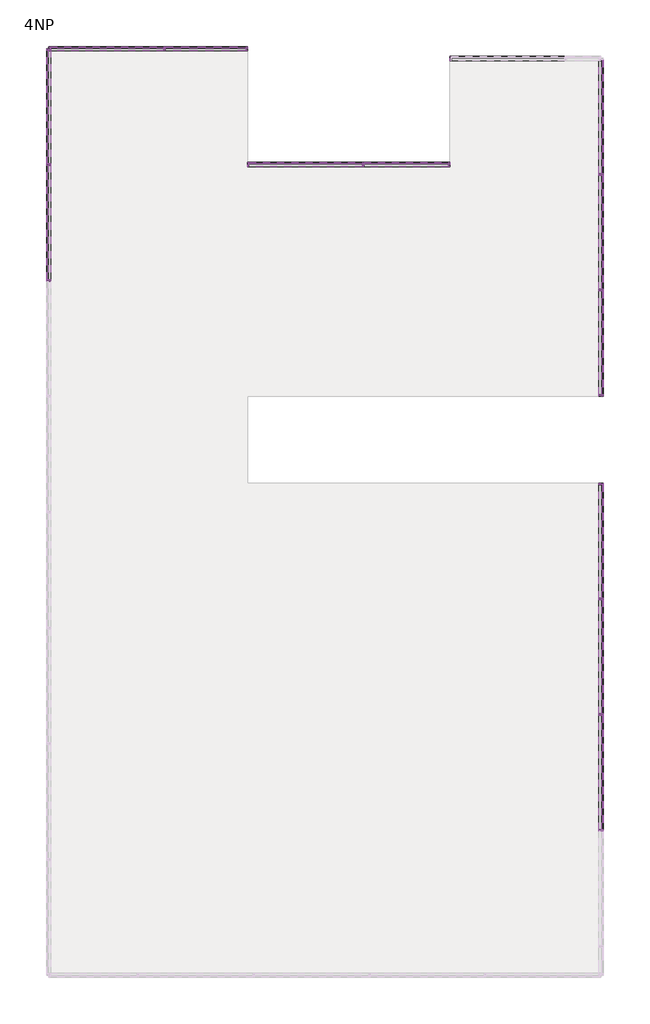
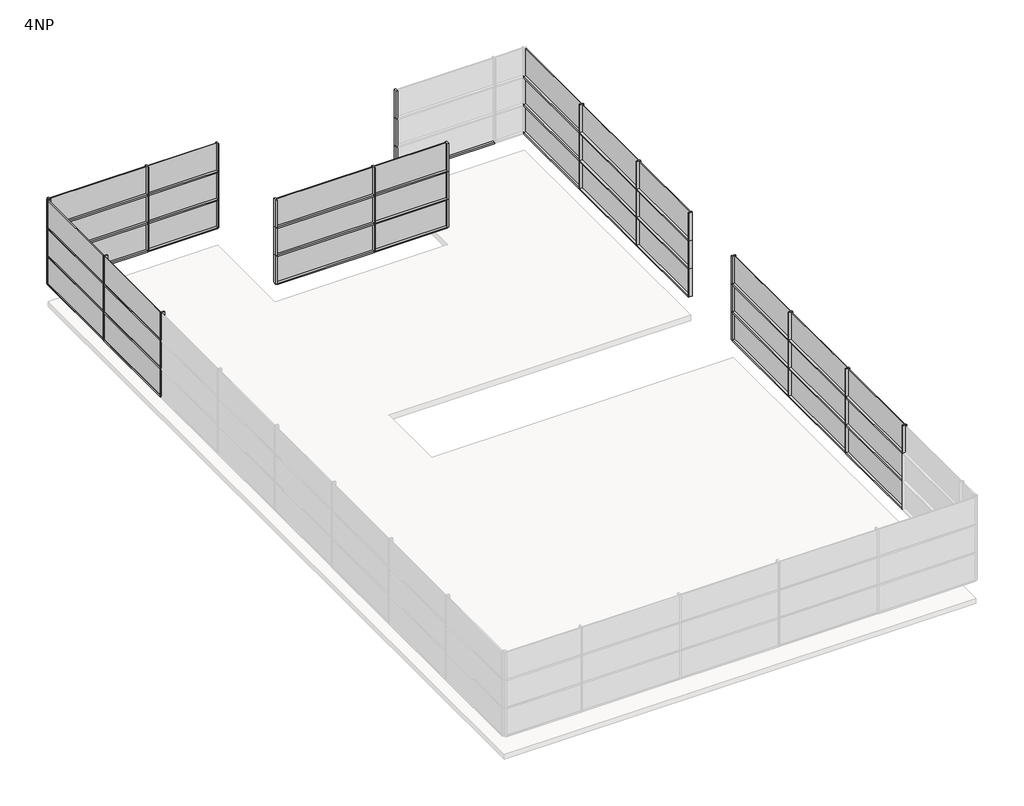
# One storey, part 2 of 3: 86 members, 36 plates.
"""IFC4 building model written with IfcOpenShell, lengths in millimetres."""

from ifc_helpers import new_model, si_unit, origin, place, context, project, spatial, transform, mapped, element, save
from components import rectangular_mullion_50_x_150mm_d99dc9be, rectangular_mullion_50_x_150mm_6588f46c, rectangular_mullion_50_x_150mm_3fe1b35e, rectangular_mullion_50_x_150mm_a037c29c, rectangular_mullion_50_x_150mm_c2546fd4, rectangular_mullion_50_x_150mm_8b4cb4b7, rectangular_mullion_50_x_150mm_185cfd49, system_panel_glazed_8e9402eb, system_panel_glazed_89ac83a7, system_panel_glazed_5566c609, system_panel_glazed_e890f31e, system_panel_glazed_e3e91f99

model = new_model("IFC4")

# Units and contexts
model_context = context("Model", 3, world=origin())
ifc_project = project(units=[si_unit("LENGTHUNIT", "METRE", prefix="MILLI")], contexts=[model_context])

# Site, building, storey
site = spatial("IfcSite", under=ifc_project)
building = spatial("IfcBuilding", under=site)
storey = spatial("IfcBuildingStorey", under=building, Name="4NP", Elevation=16000.0)

# Members
placement = place(None, origin())
rectangular_mullion_50_x_150mm_shape = rectangular_mullion_50_x_150mm_d99dc9be(model_context)
element("IfcMember", 1, ObjectType="Rectangular Mullion : 50 x 150mm", at=placement, inside=storey, context=model_context, shape_type="MappedRepresentation", body=[
    mapped(rectangular_mullion_50_x_150mm_shape, transform((13503.2660975, 39.3555415, 20400.0), x_axis=(0.0, -1.0, 0.0), y_axis=(1.0, 0.0, 0.0), z_axis=(0.0, 0.0, 1.0))),
])
element("IfcMember", 2, ObjectType="Rectangular Mullion : 50 x 150mm", at=placement, inside=storey, context=model_context, shape_type="MappedRepresentation", body=[
    mapped(rectangular_mullion_50_x_150mm_shape, transform((13503.2660975, 39.3555415, 19200.0), x_axis=(0.0, -1.0, 0.0), y_axis=(1.0, 0.0, 0.0), z_axis=(0.0, 0.0, 1.0))),
])
element("IfcMember", 3, ObjectType="Rectangular Mullion : 50 x 150mm", at=placement, inside=storey, context=model_context, shape_type="MappedRepresentation", body=[
    mapped(rectangular_mullion_50_x_150mm_shape, transform((13503.2660975, 39.3555415, 18000.0), x_axis=(0.0, -1.0, 0.0), y_axis=(1.0, 0.0, 0.0), z_axis=(0.0, 0.0, 1.0))),
])
element("IfcMember", 4, ObjectType="Rectangular Mullion : 50 x 150mm", at=placement, inside=storey, context=model_context, shape_type="MappedRepresentation", body=[
    mapped(rectangular_mullion_50_x_150mm_shape, transform((13503.2660975, 4039.3555415, 20400.0), x_axis=(0.0, -1.0, 0.0), y_axis=(1.0, 0.0, 0.0), z_axis=(0.0, 0.0, 1.0))),
])
element("IfcMember", 5, ObjectType="Rectangular Mullion : 50 x 150mm", at=placement, inside=storey, context=model_context, shape_type="MappedRepresentation", body=[
    mapped(rectangular_mullion_50_x_150mm_shape, transform((13503.2660975, 4039.3555415, 19200.0), x_axis=(0.0, -1.0, 0.0), y_axis=(1.0, 0.0, 0.0), z_axis=(0.0, 0.0, 1.0))),
])
element("IfcMember", 6, ObjectType="Rectangular Mullion : 50 x 150mm", at=placement, inside=storey, context=model_context, shape_type="MappedRepresentation", body=[
    mapped(rectangular_mullion_50_x_150mm_shape, transform((13503.2660975, 4039.3555415, 18000.0), x_axis=(0.0, -1.0, 0.0), y_axis=(1.0, 0.0, 0.0), z_axis=(0.0, 0.0, 1.0))),
])
element("IfcMember", 7, ObjectType="Rectangular Mullion : 50 x 150mm", at=placement, inside=storey, context=model_context, shape_type="MappedRepresentation", body=[
    mapped(rectangular_mullion_50_x_150mm_shape, transform((13503.2660975, -10624.0160434, 18000.0), x_axis=(0.0, -1.0, 0.0), y_axis=(1.0, 0.0, 0.0), z_axis=(0.0, 0.0, 1.0))),
])
element("IfcMember", 8, ObjectType="Rectangular Mullion : 50 x 150mm", at=placement, inside=storey, context=model_context, shape_type="MappedRepresentation", body=[
    mapped(rectangular_mullion_50_x_150mm_shape, transform((13503.2660975, -10624.0160434, 19200.0), x_axis=(0.0, -1.0, 0.0), y_axis=(1.0, 0.0, 0.0), z_axis=(0.0, 0.0, 1.0))),
])
element("IfcMember", 9, ObjectType="Rectangular Mullion : 50 x 150mm", at=placement, inside=storey, context=model_context, shape_type="MappedRepresentation", body=[
    mapped(rectangular_mullion_50_x_150mm_shape, transform((13503.2660975, -10624.0160434, 20400.0), x_axis=(0.0, -1.0, 0.0), y_axis=(1.0, 0.0, 0.0), z_axis=(0.0, 0.0, 1.0))),
])
element("IfcMember", 10, ObjectType="Rectangular Mullion : 50 x 150mm", at=placement, inside=storey, context=model_context, shape_type="MappedRepresentation", body=[
    mapped(rectangular_mullion_50_x_150mm_shape, transform((13503.2660975, -14624.0160434, 18000.0), x_axis=(0.0, -1.0, 0.0), y_axis=(1.0, 0.0, 0.0), z_axis=(0.0, 0.0, 1.0))),
])
element("IfcMember", 11, ObjectType="Rectangular Mullion : 50 x 150mm", at=placement, inside=storey, context=model_context, shape_type="MappedRepresentation", body=[
    mapped(rectangular_mullion_50_x_150mm_shape, transform((13503.2660975, -14624.0160434, 19200.0), x_axis=(0.0, -1.0, 0.0), y_axis=(1.0, 0.0, 0.0), z_axis=(0.0, 0.0, 1.0))),
])
element("IfcMember", 12, ObjectType="Rectangular Mullion : 50 x 150mm", at=placement, inside=storey, context=model_context, shape_type="MappedRepresentation", body=[
    mapped(rectangular_mullion_50_x_150mm_shape, transform((13503.2660975, -14624.0160434, 20400.0), x_axis=(0.0, -1.0, 0.0), y_axis=(1.0, 0.0, 0.0), z_axis=(0.0, 0.0, 1.0))),
])
element("IfcMember", 13, ObjectType="Rectangular Mullion : 50 x 150mm", at=placement, inside=storey, context=model_context, shape_type="MappedRepresentation", body=[
    mapped(rectangular_mullion_50_x_150mm_shape, transform((13503.2660975, -18624.0160434, 20400.0), x_axis=(0.0, -1.0, 0.0), y_axis=(1.0, 0.0, 0.0), z_axis=(0.0, 0.0, 1.0))),
])
element("IfcMember", 14, ObjectType="Rectangular Mullion : 50 x 150mm", at=placement, inside=storey, context=model_context, shape_type="MappedRepresentation", body=[
    mapped(rectangular_mullion_50_x_150mm_shape, transform((-5587.173406, 375.9839566, 18000.0), x_axis=(0.0, 1.0, 0.0), y_axis=(-1.0, 0.0, 0.0), z_axis=(0.0, 0.0, 1.0))),
])
element("IfcMember", 15, ObjectType="Rectangular Mullion : 50 x 150mm", at=placement, inside=storey, context=model_context, shape_type="MappedRepresentation", body=[
    mapped(rectangular_mullion_50_x_150mm_shape, transform((-5587.173406, 375.9839566, 19200.0), x_axis=(0.0, 1.0, 0.0), y_axis=(-1.0, 0.0, 0.0), z_axis=(0.0, 0.0, 1.0))),
])
element("IfcMember", 16, ObjectType="Rectangular Mullion : 50 x 150mm", at=placement, inside=storey, context=model_context, shape_type="MappedRepresentation", body=[
    mapped(rectangular_mullion_50_x_150mm_shape, transform((-5587.173406, 375.9839566, 20400.0), x_axis=(0.0, 1.0, 0.0), y_axis=(-1.0, 0.0, 0.0), z_axis=(0.0, 0.0, 1.0))),
])
element("IfcMember", 17, ObjectType="Rectangular Mullion : 50 x 150mm", at=placement, inside=storey, context=model_context, shape_type="MappedRepresentation", body=[
    mapped(rectangular_mullion_50_x_150mm_shape, transform((-5587.173406, 4375.9839566, 18000.0), x_axis=(0.0, 1.0, 0.0), y_axis=(-1.0, 0.0, 0.0), z_axis=(0.0, 0.0, 1.0))),
])
element("IfcMember", 18, ObjectType="Rectangular Mullion : 50 x 150mm", at=placement, inside=storey, context=model_context, shape_type="MappedRepresentation", body=[
    mapped(rectangular_mullion_50_x_150mm_shape, transform((-5587.173406, 4375.9839566, 19200.0), x_axis=(0.0, 1.0, 0.0), y_axis=(-1.0, 0.0, 0.0), z_axis=(0.0, 0.0, 1.0))),
])
element("IfcMember", 19, ObjectType="Rectangular Mullion : 50 x 150mm", at=placement, inside=storey, context=model_context, shape_type="MappedRepresentation", body=[
    mapped(rectangular_mullion_50_x_150mm_shape, transform((-5587.173406, 4375.9839566, 20400.0), x_axis=(0.0, 1.0, 0.0), y_axis=(-1.0, 0.0, 0.0), z_axis=(0.0, 0.0, 1.0))),
])
element("IfcMember", 20, ObjectType="Rectangular Mullion : 50 x 150mm", at=placement, inside=storey, context=model_context, shape_type="MappedRepresentation", body=[
    mapped(rectangular_mullion_50_x_150mm_shape, transform((-1587.173406, 8375.9839566, 18000.0), x_axis=(1.0, 0.0, 0.0), y_axis=(0.0, 1.0, 0.0), z_axis=(0.0, 0.0, 1.0))),
])
element("IfcMember", 21, ObjectType="Rectangular Mullion : 50 x 150mm", at=placement, inside=storey, context=model_context, shape_type="MappedRepresentation", body=[
    mapped(rectangular_mullion_50_x_150mm_shape, transform((-1587.173406, 8375.9839566, 19200.0), x_axis=(1.0, 0.0, 0.0), y_axis=(0.0, 1.0, 0.0), z_axis=(0.0, 0.0, 1.0))),
])
element("IfcMember", 22, ObjectType="Rectangular Mullion : 50 x 150mm", at=placement, inside=storey, context=model_context, shape_type="MappedRepresentation", body=[
    mapped(rectangular_mullion_50_x_150mm_shape, transform((-1587.173406, 8375.9839566, 20400.0), x_axis=(1.0, 0.0, 0.0), y_axis=(0.0, 1.0, 0.0), z_axis=(0.0, 0.0, 1.0))),
])
element("IfcMember", 23, ObjectType="Rectangular Mullion : 50 x 150mm", at=placement, inside=storey, context=model_context, shape_type="MappedRepresentation", body=[
    mapped(rectangular_mullion_50_x_150mm_shape, transform((5278.419219, 4375.9839566, 18000.0), x_axis=(1.0, 0.0, 0.0), y_axis=(0.0, 1.0, 0.0), z_axis=(0.0, 0.0, 1.0))),
])
element("IfcMember", 24, ObjectType="Rectangular Mullion : 50 x 150mm", at=placement, inside=storey, context=model_context, shape_type="MappedRepresentation", body=[
    mapped(rectangular_mullion_50_x_150mm_shape, transform((5278.419219, 4375.9839566, 19200.0), x_axis=(1.0, 0.0, 0.0), y_axis=(0.0, 1.0, 0.0), z_axis=(0.0, 0.0, 1.0))),
])
element("IfcMember", 25, ObjectType="Rectangular Mullion : 50 x 150mm", at=placement, inside=storey, context=model_context, shape_type="MappedRepresentation", body=[
    mapped(rectangular_mullion_50_x_150mm_shape, transform((5278.419219, 4375.9839566, 20400.0), x_axis=(1.0, 0.0, 0.0), y_axis=(0.0, 1.0, 0.0), z_axis=(0.0, 0.0, 1.0))),
])
rectangular_mullion_50_x_150mm_2_shape = rectangular_mullion_50_x_150mm_6588f46c(model_context)
element("IfcMember", 26, ObjectType="Rectangular Mullion : 50 x 150mm", at=placement, inside=storey, context=model_context, shape_type="MappedRepresentation", body=[
    mapped(rectangular_mullion_50_x_150mm_2_shape, transform((13503.2660975, -3624.0160434, 20400.0), x_axis=(0.0, -1.0, 0.0), y_axis=(1.0, 0.0, 0.0), z_axis=(0.0, 0.0, 1.0))),
])
element("IfcMember", 27, ObjectType="Rectangular Mullion : 50 x 150mm", at=placement, inside=storey, context=model_context, shape_type="MappedRepresentation", body=[
    mapped(rectangular_mullion_50_x_150mm_2_shape, transform((13503.2660975, -3624.0160434, 19200.0), x_axis=(0.0, -1.0, 0.0), y_axis=(1.0, 0.0, 0.0), z_axis=(0.0, 0.0, 1.0))),
])
element("IfcMember", 28, ObjectType="Rectangular Mullion : 50 x 150mm", at=placement, inside=storey, context=model_context, shape_type="MappedRepresentation", body=[
    mapped(rectangular_mullion_50_x_150mm_2_shape, transform((13503.2660975, -3624.0160434, 18000.0), x_axis=(0.0, -1.0, 0.0), y_axis=(1.0, 0.0, 0.0), z_axis=(0.0, 0.0, 1.0))),
])
element("IfcMember", 29, ObjectType="Rectangular Mullion : 50 x 150mm", at=placement, inside=storey, context=model_context, shape_type="MappedRepresentation", body=[
    mapped(rectangular_mullion_50_x_150mm_2_shape, transform((-5587.173406, 8375.9839566, 18000.0), x_axis=(0.0, 1.0, 0.0), y_axis=(-1.0, 0.0, 0.0), z_axis=(0.0, 0.0, 1.0))),
])
element("IfcMember", 30, ObjectType="Rectangular Mullion : 50 x 150mm", at=placement, inside=storey, context=model_context, shape_type="MappedRepresentation", body=[
    mapped(rectangular_mullion_50_x_150mm_2_shape, transform((-5587.173406, 8375.9839566, 19200.0), x_axis=(0.0, 1.0, 0.0), y_axis=(-1.0, 0.0, 0.0), z_axis=(0.0, 0.0, 1.0))),
])
element("IfcMember", 31, ObjectType="Rectangular Mullion : 50 x 150mm", at=placement, inside=storey, context=model_context, shape_type="MappedRepresentation", body=[
    mapped(rectangular_mullion_50_x_150mm_2_shape, transform((-5587.173406, 8375.9839566, 20400.0), x_axis=(0.0, 1.0, 0.0), y_axis=(-1.0, 0.0, 0.0), z_axis=(0.0, 0.0, 1.0))),
])
element("IfcMember", 32, ObjectType="Rectangular Mullion : 50 x 150mm", at=placement, inside=storey, context=model_context, shape_type="MappedRepresentation", body=[
    mapped(rectangular_mullion_50_x_150mm_2_shape, transform((1278.419219, 8375.9839566, 18000.0), x_axis=(1.0, 0.0, 0.0), y_axis=(0.0, 1.0, 0.0), z_axis=(0.0, 0.0, 1.0))),
])
element("IfcMember", 33, ObjectType="Rectangular Mullion : 50 x 150mm", at=placement, inside=storey, context=model_context, shape_type="MappedRepresentation", body=[
    mapped(rectangular_mullion_50_x_150mm_2_shape, transform((1278.419219, 8375.9839566, 19200.0), x_axis=(1.0, 0.0, 0.0), y_axis=(0.0, 1.0, 0.0), z_axis=(0.0, 0.0, 1.0))),
])
element("IfcMember", 34, ObjectType="Rectangular Mullion : 50 x 150mm", at=placement, inside=storey, context=model_context, shape_type="MappedRepresentation", body=[
    mapped(rectangular_mullion_50_x_150mm_2_shape, transform((1278.419219, 8375.9839566, 20400.0), x_axis=(1.0, 0.0, 0.0), y_axis=(0.0, 1.0, 0.0), z_axis=(0.0, 0.0, 1.0))),
])
element("IfcMember", 35, ObjectType="Rectangular Mullion : 50 x 150mm", at=placement, inside=storey, context=model_context, shape_type="MappedRepresentation", body=[
    mapped(rectangular_mullion_50_x_150mm_2_shape, transform((8278.419219, 4375.9839566, 18000.0), x_axis=(1.0, 0.0, 0.0), y_axis=(0.0, 1.0, 0.0), z_axis=(0.0, 0.0, 1.0))),
])
element("IfcMember", 36, ObjectType="Rectangular Mullion : 50 x 150mm", at=placement, inside=storey, context=model_context, shape_type="MappedRepresentation", body=[
    mapped(rectangular_mullion_50_x_150mm_2_shape, transform((8278.419219, 4375.9839566, 19200.0), x_axis=(1.0, 0.0, 0.0), y_axis=(0.0, 1.0, 0.0), z_axis=(0.0, 0.0, 1.0))),
])
element("IfcMember", 37, ObjectType="Rectangular Mullion : 50 x 150mm", at=placement, inside=storey, context=model_context, shape_type="MappedRepresentation", body=[
    mapped(rectangular_mullion_50_x_150mm_2_shape, transform((8278.419219, 4375.9839566, 20400.0), x_axis=(1.0, 0.0, 0.0), y_axis=(0.0, 1.0, 0.0), z_axis=(0.0, 0.0, 1.0))),
])
rectangular_mullion_50_x_150mm_3_shape = rectangular_mullion_50_x_150mm_3fe1b35e(model_context)
element("IfcMember", 38, ObjectType="Rectangular Mullion : 50 x 150mm", at=placement, inside=storey, context=model_context, shape_type="MappedRepresentation", body=[
    mapped(rectangular_mullion_50_x_150mm_3_shape, transform((13503.2660975, 14.3555415, 19200.0), x_axis=(0.0, 0.0, 1.0), y_axis=(1.0, 0.0, 0.0), z_axis=(0.0, 1.0, 0.0))),
])
element("IfcMember", 39, ObjectType="Rectangular Mullion : 50 x 150mm", at=placement, inside=storey, context=model_context, shape_type="MappedRepresentation", body=[
    mapped(rectangular_mullion_50_x_150mm_3_shape, transform((13503.2660975, 14.3555415, 18000.0), x_axis=(0.0, 0.0, 1.0), y_axis=(1.0, 0.0, 0.0), z_axis=(0.0, 1.0, 0.0))),
])
element("IfcMember", 40, ObjectType="Rectangular Mullion : 50 x 150mm", at=placement, inside=storey, context=model_context, shape_type="MappedRepresentation", body=[
    mapped(rectangular_mullion_50_x_150mm_3_shape, transform((13503.2660975, 14.3555415, 16800.0), x_axis=(0.0, 0.0, 1.0), y_axis=(1.0, 0.0, 0.0), z_axis=(0.0, 1.0, 0.0))),
])
rectangular_mullion_50_x_150mm_4_shape = rectangular_mullion_50_x_150mm_a037c29c(model_context)
element("IfcMember", 41, ObjectType="Rectangular Mullion : 50 x 150mm", at=placement, inside=storey, context=model_context, shape_type="MappedRepresentation", body=[
    mapped(rectangular_mullion_50_x_150mm_4_shape, transform((13503.2660975, 4014.3555415, 19200.0), x_axis=(0.0, 0.0, 1.0), y_axis=(1.0, 0.0, 0.0), z_axis=(0.0, 1.0, 0.0))),
])
element("IfcMember", 42, ObjectType="Rectangular Mullion : 50 x 150mm", at=placement, inside=storey, context=model_context, shape_type="MappedRepresentation", body=[
    mapped(rectangular_mullion_50_x_150mm_4_shape, transform((13503.2660975, 4014.3555415, 18000.0), x_axis=(0.0, 0.0, 1.0), y_axis=(1.0, 0.0, 0.0), z_axis=(0.0, 1.0, 0.0))),
])
element("IfcMember", 43, ObjectType="Rectangular Mullion : 50 x 150mm", at=placement, inside=storey, context=model_context, shape_type="MappedRepresentation", body=[
    mapped(rectangular_mullion_50_x_150mm_4_shape, transform((13503.2660975, 4014.3555415, 16800.0), x_axis=(0.0, 0.0, 1.0), y_axis=(1.0, 0.0, 0.0), z_axis=(0.0, 1.0, 0.0))),
])
element("IfcMember", 44, ObjectType="Rectangular Mullion : 50 x 150mm", at=placement, inside=storey, context=model_context, shape_type="MappedRepresentation", body=[
    mapped(rectangular_mullion_50_x_150mm_4_shape, transform((13503.2660975, -10649.0160434, 16800.0), x_axis=(0.0, 0.0, 1.0), y_axis=(1.0, 0.0, 0.0), z_axis=(0.0, 1.0, 0.0))),
])
element("IfcMember", 45, ObjectType="Rectangular Mullion : 50 x 150mm", at=placement, inside=storey, context=model_context, shape_type="MappedRepresentation", body=[
    mapped(rectangular_mullion_50_x_150mm_4_shape, transform((13503.2660975, -14649.0160434, 16800.0), x_axis=(0.0, 0.0, 1.0), y_axis=(1.0, 0.0, 0.0), z_axis=(0.0, 1.0, 0.0))),
])
element("IfcMember", 46, ObjectType="Rectangular Mullion : 50 x 150mm", at=placement, inside=storey, context=model_context, shape_type="MappedRepresentation", body=[
    mapped(rectangular_mullion_50_x_150mm_4_shape, transform((13503.2660975, -10649.0160434, 18000.0), x_axis=(0.0, 0.0, 1.0), y_axis=(1.0, 0.0, 0.0), z_axis=(0.0, 1.0, 0.0))),
])
element("IfcMember", 47, ObjectType="Rectangular Mullion : 50 x 150mm", at=placement, inside=storey, context=model_context, shape_type="MappedRepresentation", body=[
    mapped(rectangular_mullion_50_x_150mm_4_shape, transform((13503.2660975, -14649.0160434, 18000.0), x_axis=(0.0, 0.0, 1.0), y_axis=(1.0, 0.0, 0.0), z_axis=(0.0, 1.0, 0.0))),
])
element("IfcMember", 48, ObjectType="Rectangular Mullion : 50 x 150mm", at=placement, inside=storey, context=model_context, shape_type="MappedRepresentation", body=[
    mapped(rectangular_mullion_50_x_150mm_4_shape, transform((13503.2660975, -10649.0160434, 19200.0), x_axis=(0.0, 0.0, 1.0), y_axis=(1.0, 0.0, 0.0), z_axis=(0.0, 1.0, 0.0))),
])
element("IfcMember", 49, ObjectType="Rectangular Mullion : 50 x 150mm", at=placement, inside=storey, context=model_context, shape_type="MappedRepresentation", body=[
    mapped(rectangular_mullion_50_x_150mm_4_shape, transform((13503.2660975, -14649.0160434, 19200.0), x_axis=(0.0, 0.0, 1.0), y_axis=(1.0, 0.0, 0.0), z_axis=(0.0, 1.0, 0.0))),
])
element("IfcMember", 50, ObjectType="Rectangular Mullion : 50 x 150mm", at=placement, inside=storey, context=model_context, shape_type="MappedRepresentation", body=[
    mapped(rectangular_mullion_50_x_150mm_4_shape, transform((-5587.173406, 400.9839566, 16800.0), x_axis=(0.0, 0.0, 1.0), y_axis=(-1.0, 0.0, 0.0), z_axis=(0.0, -1.0, 0.0))),
])
element("IfcMember", 51, ObjectType="Rectangular Mullion : 50 x 150mm", at=placement, inside=storey, context=model_context, shape_type="MappedRepresentation", body=[
    mapped(rectangular_mullion_50_x_150mm_4_shape, transform((-5587.173406, 400.9839566, 18000.0), x_axis=(0.0, 0.0, 1.0), y_axis=(-1.0, 0.0, 0.0), z_axis=(0.0, -1.0, 0.0))),
])
element("IfcMember", 52, ObjectType="Rectangular Mullion : 50 x 150mm", at=placement, inside=storey, context=model_context, shape_type="MappedRepresentation", body=[
    mapped(rectangular_mullion_50_x_150mm_4_shape, transform((-5587.173406, 400.9839566, 19200.0), x_axis=(0.0, 0.0, 1.0), y_axis=(-1.0, 0.0, 0.0), z_axis=(0.0, -1.0, 0.0))),
])
rectangular_mullion_50_x_150mm_5_shape = rectangular_mullion_50_x_150mm_c2546fd4(model_context)
element("IfcMember", 53, ObjectType="Rectangular Mullion : 50 x 150mm", at=placement, inside=storey, context=model_context, shape_type="MappedRepresentation", body=[
    mapped(rectangular_mullion_50_x_150mm_5_shape, transform((13503.2660975, 7989.3555415, 19200.0), x_axis=(0.0, 0.0, 1.0), y_axis=(1.0, 0.0, 0.0), z_axis=(0.0, 1.0, 0.0))),
])
element("IfcMember", 54, ObjectType="Rectangular Mullion : 50 x 150mm", at=placement, inside=storey, context=model_context, shape_type="MappedRepresentation", body=[
    mapped(rectangular_mullion_50_x_150mm_5_shape, transform((13503.2660975, 7989.3555415, 18000.0), x_axis=(0.0, 0.0, 1.0), y_axis=(1.0, 0.0, 0.0), z_axis=(0.0, 1.0, 0.0))),
])
element("IfcMember", 55, ObjectType="Rectangular Mullion : 50 x 150mm", at=placement, inside=storey, context=model_context, shape_type="MappedRepresentation", body=[
    mapped(rectangular_mullion_50_x_150mm_5_shape, transform((13503.2660975, 7989.3555415, 16800.0), x_axis=(0.0, 0.0, 1.0), y_axis=(1.0, 0.0, 0.0), z_axis=(0.0, 1.0, 0.0))),
])
element("IfcMember", 56, ObjectType="Rectangular Mullion : 50 x 150mm", at=placement, inside=storey, context=model_context, shape_type="MappedRepresentation", body=[
    mapped(rectangular_mullion_50_x_150mm_5_shape, transform((13503.2660975, -6674.0160434, 16800.0), x_axis=(0.0, 0.0, 1.0), y_axis=(1.0, 0.0, 0.0), z_axis=(0.0, 1.0, 0.0))),
])
element("IfcMember", 57, ObjectType="Rectangular Mullion : 50 x 150mm", at=placement, inside=storey, context=model_context, shape_type="MappedRepresentation", body=[
    mapped(rectangular_mullion_50_x_150mm_5_shape, transform((13503.2660975, -6674.0160434, 18000.0), x_axis=(0.0, 0.0, 1.0), y_axis=(1.0, 0.0, 0.0), z_axis=(0.0, 1.0, 0.0))),
])
element("IfcMember", 58, ObjectType="Rectangular Mullion : 50 x 150mm", at=placement, inside=storey, context=model_context, shape_type="MappedRepresentation", body=[
    mapped(rectangular_mullion_50_x_150mm_5_shape, transform((13503.2660975, -6674.0160434, 19200.0), x_axis=(0.0, 0.0, 1.0), y_axis=(1.0, 0.0, 0.0), z_axis=(0.0, 1.0, 0.0))),
])
element("IfcMember", 59, ObjectType="Rectangular Mullion : 50 x 150mm", at=placement, inside=storey, context=model_context, shape_type="MappedRepresentation", body=[
    mapped(rectangular_mullion_50_x_150mm_5_shape, transform((-5587.173406, 4400.9839566, 16800.0), x_axis=(0.0, 0.0, 1.0), y_axis=(-1.0, 0.0, 0.0), z_axis=(0.0, -1.0, 0.0))),
])
element("IfcMember", 60, ObjectType="Rectangular Mullion : 50 x 150mm", at=placement, inside=storey, context=model_context, shape_type="MappedRepresentation", body=[
    mapped(rectangular_mullion_50_x_150mm_5_shape, transform((-5587.173406, 4400.9839566, 18000.0), x_axis=(0.0, 0.0, 1.0), y_axis=(-1.0, 0.0, 0.0), z_axis=(0.0, -1.0, 0.0))),
])
element("IfcMember", 61, ObjectType="Rectangular Mullion : 50 x 150mm", at=placement, inside=storey, context=model_context, shape_type="MappedRepresentation", body=[
    mapped(rectangular_mullion_50_x_150mm_5_shape, transform((-5587.173406, 4400.9839566, 19200.0), x_axis=(0.0, 0.0, 1.0), y_axis=(-1.0, 0.0, 0.0), z_axis=(0.0, -1.0, 0.0))),
])
element("IfcMember", 62, ObjectType="Rectangular Mullion : 50 x 150mm", at=placement, inside=storey, context=model_context, shape_type="MappedRepresentation", body=[
    mapped(rectangular_mullion_50_x_150mm_5_shape, transform((-5537.173406, 8375.9839566, 18000.0), x_axis=(0.0, 0.0, 1.0), y_axis=(0.0, 1.0, 0.0), z_axis=(-1.0, 0.0, 0.0))),
])
element("IfcMember", 63, ObjectType="Rectangular Mullion : 50 x 150mm", at=placement, inside=storey, context=model_context, shape_type="MappedRepresentation", body=[
    mapped(rectangular_mullion_50_x_150mm_5_shape, transform((-5537.173406, 8375.9839566, 19200.0), x_axis=(0.0, 0.0, 1.0), y_axis=(0.0, 1.0, 0.0), z_axis=(-1.0, 0.0, 0.0))),
])
element("IfcMember", 64, ObjectType="Rectangular Mullion : 50 x 150mm", at=placement, inside=storey, context=model_context, shape_type="MappedRepresentation", body=[
    mapped(rectangular_mullion_50_x_150mm_5_shape, transform((-5537.173406, 8375.9839566, 16800.0), x_axis=(0.0, 0.0, 1.0), y_axis=(0.0, 1.0, 0.0), z_axis=(-1.0, 0.0, 0.0))),
])
element("IfcMember", 65, ObjectType="Rectangular Mullion : 50 x 150mm", at=placement, inside=storey, context=model_context, shape_type="MappedRepresentation", body=[
    mapped(rectangular_mullion_50_x_150mm_5_shape, transform((1328.419219, 4375.9839566, 16800.0), x_axis=(0.0, 0.0, 1.0), y_axis=(0.0, 1.0, 0.0), z_axis=(-1.0, 0.0, 0.0))),
])
element("IfcMember", 66, ObjectType="Rectangular Mullion : 50 x 150mm", at=placement, inside=storey, context=model_context, shape_type="MappedRepresentation", body=[
    mapped(rectangular_mullion_50_x_150mm_5_shape, transform((1328.419219, 4375.9839566, 18000.0), x_axis=(0.0, 0.0, 1.0), y_axis=(0.0, 1.0, 0.0), z_axis=(-1.0, 0.0, 0.0))),
])
element("IfcMember", 67, ObjectType="Rectangular Mullion : 50 x 150mm", at=placement, inside=storey, context=model_context, shape_type="MappedRepresentation", body=[
    mapped(rectangular_mullion_50_x_150mm_5_shape, transform((1328.419219, 4375.9839566, 19200.0), x_axis=(0.0, 0.0, 1.0), y_axis=(0.0, 1.0, 0.0), z_axis=(-1.0, 0.0, 0.0))),
])
element("IfcMember", 68, ObjectType="Rectangular Mullion : 50 x 150mm", at=placement, inside=storey, context=model_context, shape_type="MappedRepresentation", body=[
    mapped(rectangular_mullion_50_x_150mm_5_shape, transform((8328.419219, 8039.3555415, 16800.0), x_axis=(0.0, 0.0, 1.0), y_axis=(0.0, 1.0, 0.0), z_axis=(-1.0, 0.0, 0.0))),
])
element("IfcMember", 69, ObjectType="Rectangular Mullion : 50 x 150mm", at=placement, inside=storey, context=model_context, shape_type="MappedRepresentation", body=[
    mapped(rectangular_mullion_50_x_150mm_2_shape, transform((13503.2660975, -6624.0160434, 16800.0), x_axis=(0.0, 1.0, 0.0), y_axis=(1.0, 0.0, 0.0), z_axis=(0.0, 0.0, -1.0))),
])
element("IfcMember", 70, ObjectType="Rectangular Mullion : 50 x 150mm", at=placement, inside=storey, context=model_context, shape_type="MappedRepresentation", body=[
    mapped(rectangular_mullion_50_x_150mm_2_shape, transform((13503.2660975, -6624.0160434, 18000.0), x_axis=(0.0, 1.0, 0.0), y_axis=(1.0, 0.0, 0.0), z_axis=(0.0, 0.0, -1.0))),
])
element("IfcMember", 71, ObjectType="Rectangular Mullion : 50 x 150mm", at=placement, inside=storey, context=model_context, shape_type="MappedRepresentation", body=[
    mapped(rectangular_mullion_50_x_150mm_2_shape, transform((13503.2660975, -6624.0160434, 19200.0), x_axis=(0.0, 1.0, 0.0), y_axis=(1.0, 0.0, 0.0), z_axis=(0.0, 0.0, -1.0))),
])
element("IfcMember", 72, ObjectType="Rectangular Mullion : 50 x 150mm", at=placement, inside=storey, context=model_context, shape_type="MappedRepresentation", body=[
    mapped(rectangular_mullion_50_x_150mm_2_shape, transform((-5587.173406, 8375.9839566, 16800.0), x_axis=(-1.0, 0.0, 0.0), y_axis=(0.0, 1.0, 0.0), z_axis=(0.0, 0.0, -1.0))),
])
element("IfcMember", 73, ObjectType="Rectangular Mullion : 50 x 150mm", at=placement, inside=storey, context=model_context, shape_type="MappedRepresentation", body=[
    mapped(rectangular_mullion_50_x_150mm_2_shape, transform((-5587.173406, 8375.9839566, 18000.0), x_axis=(-1.0, 0.0, 0.0), y_axis=(0.0, 1.0, 0.0), z_axis=(0.0, 0.0, -1.0))),
])
element("IfcMember", 74, ObjectType="Rectangular Mullion : 50 x 150mm", at=placement, inside=storey, context=model_context, shape_type="MappedRepresentation", body=[
    mapped(rectangular_mullion_50_x_150mm_2_shape, transform((-5587.173406, 8375.9839566, 19200.0), x_axis=(-1.0, 0.0, 0.0), y_axis=(0.0, 1.0, 0.0), z_axis=(0.0, 0.0, -1.0))),
])
element("IfcMember", 75, ObjectType="Rectangular Mullion : 50 x 150mm", at=placement, inside=storey, context=model_context, shape_type="MappedRepresentation", body=[
    mapped(rectangular_mullion_50_x_150mm_2_shape, transform((1278.419219, 4375.9839566, 16800.0), x_axis=(-1.0, 0.0, 0.0), y_axis=(0.0, 1.0, 0.0), z_axis=(0.0, 0.0, -1.0))),
])
element("IfcMember", 76, ObjectType="Rectangular Mullion : 50 x 150mm", at=placement, inside=storey, context=model_context, shape_type="MappedRepresentation", body=[
    mapped(rectangular_mullion_50_x_150mm_2_shape, transform((1278.419219, 4375.9839566, 18000.0), x_axis=(-1.0, 0.0, 0.0), y_axis=(0.0, 1.0, 0.0), z_axis=(0.0, 0.0, -1.0))),
])
element("IfcMember", 77, ObjectType="Rectangular Mullion : 50 x 150mm", at=placement, inside=storey, context=model_context, shape_type="MappedRepresentation", body=[
    mapped(rectangular_mullion_50_x_150mm_2_shape, transform((1278.419219, 4375.9839566, 19200.0), x_axis=(-1.0, 0.0, 0.0), y_axis=(0.0, 1.0, 0.0), z_axis=(0.0, 0.0, -1.0))),
])
element("IfcMember", 78, ObjectType="Rectangular Mullion : 50 x 150mm", at=placement, inside=storey, context=model_context, shape_type="MappedRepresentation", body=[
    mapped(rectangular_mullion_50_x_150mm_2_shape, transform((8278.419219, 8039.3555415, 16800.0), x_axis=(-1.0, 0.0, 0.0), y_axis=(0.0, 1.0, 0.0), z_axis=(0.0, 0.0, -1.0))),
])
element("IfcMember", 79, ObjectType="Rectangular Mullion : 50 x 150mm", at=placement, inside=storey, context=model_context, shape_type="MappedRepresentation", body=[
    mapped(rectangular_mullion_50_x_150mm_2_shape, transform((8278.419219, 8039.3555415, 18000.0), x_axis=(-1.0, 0.0, 0.0), y_axis=(0.0, 1.0, 0.0), z_axis=(0.0, 0.0, -1.0))),
])
element("IfcMember", 80, ObjectType="Rectangular Mullion : 50 x 150mm", at=placement, inside=storey, context=model_context, shape_type="MappedRepresentation", body=[
    mapped(rectangular_mullion_50_x_150mm_2_shape, transform((8278.419219, 8039.3555415, 19200.0), x_axis=(-1.0, 0.0, 0.0), y_axis=(0.0, 1.0, 0.0), z_axis=(0.0, 0.0, -1.0))),
])
rectangular_mullion_50_x_150mm_6_shape = rectangular_mullion_50_x_150mm_8b4cb4b7(model_context)
element("IfcMember", 81, ObjectType="Rectangular Mullion : 50 x 150mm", at=placement, inside=storey, context=model_context, shape_type="MappedRepresentation", body=[
    mapped(rectangular_mullion_50_x_150mm_6_shape, transform((-1562.173406, 8375.9839566, 16800.0), x_axis=(0.0, 0.0, 1.0), y_axis=(0.0, 1.0, 0.0), z_axis=(-1.0, 0.0, 0.0))),
])
element("IfcMember", 82, ObjectType="Rectangular Mullion : 50 x 150mm", at=placement, inside=storey, context=model_context, shape_type="MappedRepresentation", body=[
    mapped(rectangular_mullion_50_x_150mm_6_shape, transform((-1562.173406, 8375.9839566, 18000.0), x_axis=(0.0, 0.0, 1.0), y_axis=(0.0, 1.0, 0.0), z_axis=(-1.0, 0.0, 0.0))),
])
element("IfcMember", 83, ObjectType="Rectangular Mullion : 50 x 150mm", at=placement, inside=storey, context=model_context, shape_type="MappedRepresentation", body=[
    mapped(rectangular_mullion_50_x_150mm_6_shape, transform((-1562.173406, 8375.9839566, 19200.0), x_axis=(0.0, 0.0, 1.0), y_axis=(0.0, 1.0, 0.0), z_axis=(-1.0, 0.0, 0.0))),
])
rectangular_mullion_50_x_150mm_7_shape = rectangular_mullion_50_x_150mm_185cfd49(model_context)
element("IfcMember", 84, ObjectType="Rectangular Mullion : 50 x 150mm", at=placement, inside=storey, context=model_context, shape_type="MappedRepresentation", body=[
    mapped(rectangular_mullion_50_x_150mm_7_shape, transform((5303.419219, 4375.9839566, 16800.0), x_axis=(0.0, 0.0, 1.0), y_axis=(0.0, 1.0, 0.0), z_axis=(-1.0, 0.0, 0.0))),
])
element("IfcMember", 85, ObjectType="Rectangular Mullion : 50 x 150mm", at=placement, inside=storey, context=model_context, shape_type="MappedRepresentation", body=[
    mapped(rectangular_mullion_50_x_150mm_7_shape, transform((5303.419219, 4375.9839566, 18000.0), x_axis=(0.0, 0.0, 1.0), y_axis=(0.0, 1.0, 0.0), z_axis=(-1.0, 0.0, 0.0))),
])
element("IfcMember", 86, ObjectType="Rectangular Mullion : 50 x 150mm", at=placement, inside=storey, context=model_context, shape_type="MappedRepresentation", body=[
    mapped(rectangular_mullion_50_x_150mm_7_shape, transform((5303.419219, 4375.9839566, 19200.0), x_axis=(0.0, 0.0, 1.0), y_axis=(0.0, 1.0, 0.0), z_axis=(-1.0, 0.0, 0.0))),
])

# Plates
system_panel_glazed_shape = system_panel_glazed_8e9402eb(model_context)
element("IfcPlate", 87, ObjectType="System Panel : Glazed", at=placement, inside=storey, context=model_context, shape_type="MappedRepresentation", body=[
    mapped(system_panel_glazed_shape, transform((-5587.173406, 6363.4839566, 16825.0), x_axis=(0.0, 1.0, 0.0), y_axis=(-1.0, 0.0, 0.0), z_axis=(0.0, 0.0, 1.0))),
])
element("IfcPlate", 88, ObjectType="System Panel : Glazed", at=placement, inside=storey, context=model_context, shape_type="MappedRepresentation", body=[
    mapped(system_panel_glazed_shape, transform((-5587.173406, 6363.4839566, 18025.0), x_axis=(0.0, 1.0, 0.0), y_axis=(-1.0, 0.0, 0.0), z_axis=(0.0, 0.0, 1.0))),
])
element("IfcPlate", 89, ObjectType="System Panel : Glazed", at=placement, inside=storey, context=model_context, shape_type="MappedRepresentation", body=[
    mapped(system_panel_glazed_shape, transform((-5587.173406, 6363.4839566, 19225.0), x_axis=(0.0, 1.0, 0.0), y_axis=(-1.0, 0.0, 0.0), z_axis=(0.0, 0.0, 1.0))),
])
element("IfcPlate", 90, ObjectType="System Panel : Glazed", at=placement, inside=storey, context=model_context, shape_type="MappedRepresentation", body=[
    mapped(system_panel_glazed_shape, transform((13503.2660975, -8636.5160434, 16825.0), x_axis=(0.0, -1.0, 0.0), y_axis=(1.0, 0.0, 0.0), z_axis=(0.0, 0.0, 1.0))),
])
element("IfcPlate", 91, ObjectType="System Panel : Glazed", at=placement, inside=storey, context=model_context, shape_type="MappedRepresentation", body=[
    mapped(system_panel_glazed_shape, transform((13503.2660975, -8636.5160434, 18025.0), x_axis=(0.0, -1.0, 0.0), y_axis=(1.0, 0.0, 0.0), z_axis=(0.0, 0.0, 1.0))),
])
element("IfcPlate", 92, ObjectType="System Panel : Glazed", at=placement, inside=storey, context=model_context, shape_type="MappedRepresentation", body=[
    mapped(system_panel_glazed_shape, transform((13503.2660975, -8636.5160434, 19225.0), x_axis=(0.0, -1.0, 0.0), y_axis=(1.0, 0.0, 0.0), z_axis=(0.0, 0.0, 1.0))),
])
element("IfcPlate", 93, ObjectType="System Panel : Glazed", at=placement, inside=storey, context=model_context, shape_type="MappedRepresentation", body=[
    mapped(system_panel_glazed_shape, transform((13503.2660975, 6026.8555415, 16825.0), x_axis=(0.0, -1.0, 0.0), y_axis=(1.0, 0.0, 0.0), z_axis=(0.0, 0.0, 1.0))),
])
element("IfcPlate", 94, ObjectType="System Panel : Glazed", at=placement, inside=storey, context=model_context, shape_type="MappedRepresentation", body=[
    mapped(system_panel_glazed_shape, transform((13503.2660975, 6026.8555415, 18025.0), x_axis=(0.0, -1.0, 0.0), y_axis=(1.0, 0.0, 0.0), z_axis=(0.0, 0.0, 1.0))),
])
element("IfcPlate", 95, ObjectType="System Panel : Glazed", at=placement, inside=storey, context=model_context, shape_type="MappedRepresentation", body=[
    mapped(system_panel_glazed_shape, transform((13503.2660975, 6026.8555415, 19225.0), x_axis=(0.0, -1.0, 0.0), y_axis=(1.0, 0.0, 0.0), z_axis=(0.0, 0.0, 1.0))),
])
element("IfcPlate", 96, ObjectType="System Panel : Glazed", at=placement, inside=storey, context=model_context, shape_type="MappedRepresentation", body=[
    mapped(system_panel_glazed_shape, transform((3290.919219, 4375.9839566, 16825.0), x_axis=(1.0, 0.0, 0.0), y_axis=(0.0, 1.0, 0.0), z_axis=(0.0, 0.0, 1.0))),
])
element("IfcPlate", 97, ObjectType="System Panel : Glazed", at=placement, inside=storey, context=model_context, shape_type="MappedRepresentation", body=[
    mapped(system_panel_glazed_shape, transform((3290.919219, 4375.9839566, 18025.0), x_axis=(1.0, 0.0, 0.0), y_axis=(0.0, 1.0, 0.0), z_axis=(0.0, 0.0, 1.0))),
])
element("IfcPlate", 98, ObjectType="System Panel : Glazed", at=placement, inside=storey, context=model_context, shape_type="MappedRepresentation", body=[
    mapped(system_panel_glazed_shape, transform((3290.919219, 4375.9839566, 19225.0), x_axis=(1.0, 0.0, 0.0), y_axis=(0.0, 1.0, 0.0), z_axis=(0.0, 0.0, 1.0))),
])
element("IfcPlate", 99, ObjectType="System Panel : Glazed", at=placement, inside=storey, context=model_context, shape_type="MappedRepresentation", body=[
    mapped(system_panel_glazed_shape, transform((-3574.673406, 8375.9839566, 16825.0), x_axis=(1.0, 0.0, 0.0), y_axis=(0.0, 1.0, 0.0), z_axis=(0.0, 0.0, 1.0))),
])
element("IfcPlate", 100, ObjectType="System Panel : Glazed", at=placement, inside=storey, context=model_context, shape_type="MappedRepresentation", body=[
    mapped(system_panel_glazed_shape, transform((-3574.673406, 8375.9839566, 18025.0), x_axis=(1.0, 0.0, 0.0), y_axis=(0.0, 1.0, 0.0), z_axis=(0.0, 0.0, 1.0))),
])
element("IfcPlate", 101, ObjectType="System Panel : Glazed", at=placement, inside=storey, context=model_context, shape_type="MappedRepresentation", body=[
    mapped(system_panel_glazed_shape, transform((-3574.673406, 8375.9839566, 19225.0), x_axis=(1.0, 0.0, 0.0), y_axis=(0.0, 1.0, 0.0), z_axis=(0.0, 0.0, 1.0))),
])
system_panel_glazed_2_shape = system_panel_glazed_89ac83a7(model_context)
element("IfcPlate", 102, ObjectType="System Panel : Glazed", at=placement, inside=storey, context=model_context, shape_type="MappedRepresentation", body=[
    mapped(system_panel_glazed_2_shape, transform((-5587.173406, 2375.9839566, 16825.0), x_axis=(0.0, 1.0, 0.0), y_axis=(-1.0, 0.0, 0.0), z_axis=(0.0, 0.0, 1.0))),
])
element("IfcPlate", 103, ObjectType="System Panel : Glazed", at=placement, inside=storey, context=model_context, shape_type="MappedRepresentation", body=[
    mapped(system_panel_glazed_2_shape, transform((-5587.173406, 2375.9839566, 18025.0), x_axis=(0.0, 1.0, 0.0), y_axis=(-1.0, 0.0, 0.0), z_axis=(0.0, 0.0, 1.0))),
])
element("IfcPlate", 104, ObjectType="System Panel : Glazed", at=placement, inside=storey, context=model_context, shape_type="MappedRepresentation", body=[
    mapped(system_panel_glazed_2_shape, transform((-5587.173406, 2375.9839566, 19225.0), x_axis=(0.0, 1.0, 0.0), y_axis=(-1.0, 0.0, 0.0), z_axis=(0.0, 0.0, 1.0))),
])
element("IfcPlate", 105, ObjectType="System Panel : Glazed", at=placement, inside=storey, context=model_context, shape_type="MappedRepresentation", body=[
    mapped(system_panel_glazed_2_shape, transform((13503.2660975, -12624.0160434, 16825.0), x_axis=(0.0, -1.0, 0.0), y_axis=(1.0, 0.0, 0.0), z_axis=(0.0, 0.0, 1.0))),
])
element("IfcPlate", 106, ObjectType="System Panel : Glazed", at=placement, inside=storey, context=model_context, shape_type="MappedRepresentation", body=[
    mapped(system_panel_glazed_2_shape, transform((13503.2660975, -16624.0160434, 16825.0), x_axis=(0.0, -1.0, 0.0), y_axis=(1.0, 0.0, 0.0), z_axis=(0.0, 0.0, 1.0))),
])
element("IfcPlate", 107, ObjectType="System Panel : Glazed", at=placement, inside=storey, context=model_context, shape_type="MappedRepresentation", body=[
    mapped(system_panel_glazed_2_shape, transform((13503.2660975, -12624.0160434, 18025.0), x_axis=(0.0, -1.0, 0.0), y_axis=(1.0, 0.0, 0.0), z_axis=(0.0, 0.0, 1.0))),
])
element("IfcPlate", 108, ObjectType="System Panel : Glazed", at=placement, inside=storey, context=model_context, shape_type="MappedRepresentation", body=[
    mapped(system_panel_glazed_2_shape, transform((13503.2660975, -16624.0160434, 18025.0), x_axis=(0.0, -1.0, 0.0), y_axis=(1.0, 0.0, 0.0), z_axis=(0.0, 0.0, 1.0))),
])
element("IfcPlate", 109, ObjectType="System Panel : Glazed", at=placement, inside=storey, context=model_context, shape_type="MappedRepresentation", body=[
    mapped(system_panel_glazed_2_shape, transform((13503.2660975, -12624.0160434, 19225.0), x_axis=(0.0, -1.0, 0.0), y_axis=(1.0, 0.0, 0.0), z_axis=(0.0, 0.0, 1.0))),
])
element("IfcPlate", 110, ObjectType="System Panel : Glazed", at=placement, inside=storey, context=model_context, shape_type="MappedRepresentation", body=[
    mapped(system_panel_glazed_2_shape, transform((13503.2660975, -16624.0160434, 19225.0), x_axis=(0.0, -1.0, 0.0), y_axis=(1.0, 0.0, 0.0), z_axis=(0.0, 0.0, 1.0))),
])
element("IfcPlate", 111, ObjectType="System Panel : Glazed", at=placement, inside=storey, context=model_context, shape_type="MappedRepresentation", body=[
    mapped(system_panel_glazed_2_shape, transform((13503.2660975, 2039.3555415, 16825.0), x_axis=(0.0, -1.0, 0.0), y_axis=(1.0, 0.0, 0.0), z_axis=(0.0, 0.0, 1.0))),
])
element("IfcPlate", 112, ObjectType="System Panel : Glazed", at=placement, inside=storey, context=model_context, shape_type="MappedRepresentation", body=[
    mapped(system_panel_glazed_2_shape, transform((13503.2660975, 2039.3555415, 18025.0), x_axis=(0.0, -1.0, 0.0), y_axis=(1.0, 0.0, 0.0), z_axis=(0.0, 0.0, 1.0))),
])
element("IfcPlate", 113, ObjectType="System Panel : Glazed", at=placement, inside=storey, context=model_context, shape_type="MappedRepresentation", body=[
    mapped(system_panel_glazed_2_shape, transform((13503.2660975, 2039.3555415, 19225.0), x_axis=(0.0, -1.0, 0.0), y_axis=(1.0, 0.0, 0.0), z_axis=(0.0, 0.0, 1.0))),
])
system_panel_glazed_3_shape = system_panel_glazed_5566c609(model_context)
element("IfcPlate", 114, ObjectType="System Panel : Glazed", at=placement, inside=storey, context=model_context, shape_type="MappedRepresentation", body=[
    mapped(system_panel_glazed_3_shape, transform((13503.2660975, -1779.830251, 16825.0), x_axis=(0.0, -1.0, 0.0), y_axis=(1.0, 0.0, 0.0), z_axis=(0.0, 0.0, 1.0))),
])
element("IfcPlate", 115, ObjectType="System Panel : Glazed", at=placement, inside=storey, context=model_context, shape_type="MappedRepresentation", body=[
    mapped(system_panel_glazed_3_shape, transform((13503.2660975, -1779.830251, 18025.0), x_axis=(0.0, -1.0, 0.0), y_axis=(1.0, 0.0, 0.0), z_axis=(0.0, 0.0, 1.0))),
])
element("IfcPlate", 116, ObjectType="System Panel : Glazed", at=placement, inside=storey, context=model_context, shape_type="MappedRepresentation", body=[
    mapped(system_panel_glazed_3_shape, transform((13503.2660975, -1779.830251, 19225.0), x_axis=(0.0, -1.0, 0.0), y_axis=(1.0, 0.0, 0.0), z_axis=(0.0, 0.0, 1.0))),
])
system_panel_glazed_4_shape = system_panel_glazed_e890f31e(model_context)
element("IfcPlate", 117, ObjectType="System Panel : Glazed", at=placement, inside=storey, context=model_context, shape_type="MappedRepresentation", body=[
    mapped(system_panel_glazed_4_shape, transform((-166.8770935, 8375.9839566, 16825.0), x_axis=(1.0, 0.0, 0.0), y_axis=(0.0, 1.0, 0.0), z_axis=(0.0, 0.0, 1.0))),
])
element("IfcPlate", 118, ObjectType="System Panel : Glazed", at=placement, inside=storey, context=model_context, shape_type="MappedRepresentation", body=[
    mapped(system_panel_glazed_4_shape, transform((-166.8770935, 8375.9839566, 18025.0), x_axis=(1.0, 0.0, 0.0), y_axis=(0.0, 1.0, 0.0), z_axis=(0.0, 0.0, 1.0))),
])
element("IfcPlate", 119, ObjectType="System Panel : Glazed", at=placement, inside=storey, context=model_context, shape_type="MappedRepresentation", body=[
    mapped(system_panel_glazed_4_shape, transform((-166.8770935, 8375.9839566, 19225.0), x_axis=(1.0, 0.0, 0.0), y_axis=(0.0, 1.0, 0.0), z_axis=(0.0, 0.0, 1.0))),
])
system_panel_glazed_5_shape = system_panel_glazed_e3e91f99(model_context)
element("IfcPlate", 120, ObjectType="System Panel : Glazed", at=placement, inside=storey, context=model_context, shape_type="MappedRepresentation", body=[
    mapped(system_panel_glazed_5_shape, transform((6765.919219, 4375.9839566, 16825.0), x_axis=(1.0, 0.0, 0.0), y_axis=(0.0, 1.0, 0.0), z_axis=(0.0, 0.0, 1.0))),
])
element("IfcPlate", 121, ObjectType="System Panel : Glazed", at=placement, inside=storey, context=model_context, shape_type="MappedRepresentation", body=[
    mapped(system_panel_glazed_5_shape, transform((6765.919219, 4375.9839566, 18025.0), x_axis=(1.0, 0.0, 0.0), y_axis=(0.0, 1.0, 0.0), z_axis=(0.0, 0.0, 1.0))),
])
element("IfcPlate", 122, ObjectType="System Panel : Glazed", at=placement, inside=storey, context=model_context, shape_type="MappedRepresentation", body=[
    mapped(system_panel_glazed_5_shape, transform((6765.919219, 4375.9839566, 19225.0), x_axis=(1.0, 0.0, 0.0), y_axis=(0.0, 1.0, 0.0), z_axis=(0.0, 0.0, 1.0))),
])

save(model, "model.ifc")
